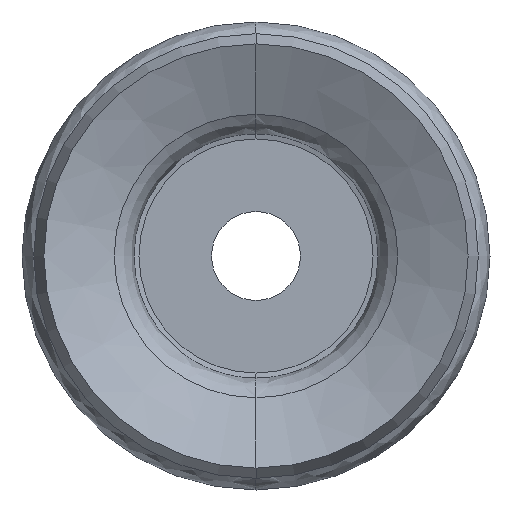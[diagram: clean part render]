
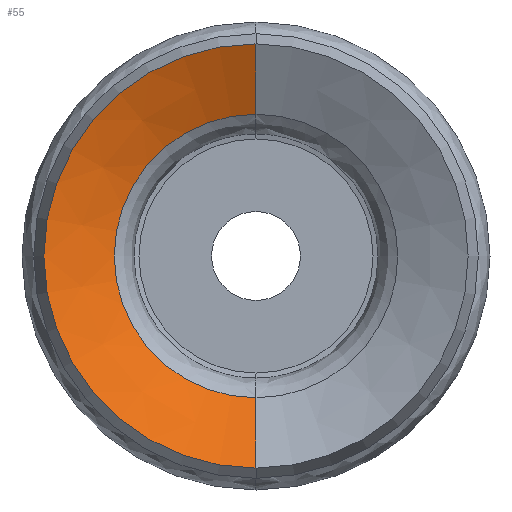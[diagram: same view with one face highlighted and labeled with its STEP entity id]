
A CAD part, front view. The second image highlights one B-rep face of the part: STEP entity #55.
In plain terms, the highlighted conical face has half-angle 64.277 degrees and reference radius 6.059 mm.
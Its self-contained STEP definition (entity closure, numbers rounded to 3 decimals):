
#50 = AXIS2_PLACEMENT_3D ( 'NONE', #527, #655, #651 ) ;
#55 = ADVANCED_FACE ( 'NONE', ( #223 ), #717, .F. ) ;
#101 = CARTESIAN_POINT ( 'NONE',  ( 0., -14.551, -6.059 ) ) ;
#114 = VECTOR ( 'NONE', #664, 1000. ) ;
#191 = DIRECTION ( 'NONE',  ( 0., -0.434, -0.901 ) ) ;
#223 = FACE_OUTER_BOUND ( 'NONE', #716, .T. ) ;
#324 = EDGE_CURVE ( 'NONE', #967, #958, #586, .T. ) ;
#448 = DIRECTION ( 'NONE',  ( 0., 1., 0. ) ) ;
#495 = VERTEX_POINT ( 'NONE', #785 ) ;
#526 = LINE ( 'NONE', #662, #114 ) ;
#527 = CARTESIAN_POINT ( 'NONE',  ( 0., -16., 0. ) ) ;
#586 = LINE ( 'NONE', #101, #900 ) ;
#604 = ORIENTED_EDGE ( 'NONE', *, *, #324, .F. ) ;
#605 = CARTESIAN_POINT ( 'NONE',  ( 0., -14.551, -6.059 ) ) ;
#637 = ORIENTED_EDGE ( 'NONE', *, *, #814, .T. ) ;
#651 = DIRECTION ( 'NONE',  ( -1., 0., 0. ) ) ;
#655 = DIRECTION ( 'NONE',  ( 0., -1., 0. ) ) ;
#662 = CARTESIAN_POINT ( 'NONE',  ( 0., -14.551, 6.059 ) ) ;
#664 = DIRECTION ( 'NONE',  ( 0., -0.434, 0.901 ) ) ;
#679 = ORIENTED_EDGE ( 'NONE', *, *, #1026, .T. ) ;
#716 = EDGE_LOOP ( 'NONE', ( #679, #961, #637, #604 ) ) ;
#717 = CONICAL_SURFACE ( 'NONE', #1087, 6.059, 1.122 ) ;
#752 = CIRCLE ( 'NONE', #50, 9.066 ) ;
#785 = CARTESIAN_POINT ( 'NONE',  ( 0., -14.551, 6.059 ) ) ;
#813 = CIRCLE ( 'NONE', #980, 6.059 ) ;
#814 = EDGE_CURVE ( 'NONE', #1096, #958, #752, .T. ) ;
#900 = VECTOR ( 'NONE', #191, 1000. ) ;
#909 = EDGE_CURVE ( 'NONE', #495, #1096, #526, .T. ) ;
#940 = CARTESIAN_POINT ( 'NONE',  ( 0., -14.551, 0. ) ) ;
#948 = CARTESIAN_POINT ( 'NONE',  ( 0., -16., 9.066 ) ) ;
#958 = VERTEX_POINT ( 'NONE', #996 ) ;
#961 = ORIENTED_EDGE ( 'NONE', *, *, #909, .T. ) ;
#967 = VERTEX_POINT ( 'NONE', #605 ) ;
#980 = AXIS2_PLACEMENT_3D ( 'NONE', #940, #448, #997 ) ;
#992 = CARTESIAN_POINT ( 'NONE',  ( 0., -14.551, 0. ) ) ;
#996 = CARTESIAN_POINT ( 'NONE',  ( 0., -16., -9.066 ) ) ;
#997 = DIRECTION ( 'NONE',  ( 0., 0., -1. ) ) ;
#1026 = EDGE_CURVE ( 'NONE', #967, #495, #813, .T. ) ;
#1029 = DIRECTION ( 'NONE',  ( 0., -1., 0. ) ) ;
#1060 = DIRECTION ( 'NONE',  ( 0., 0., -1. ) ) ;
#1087 = AXIS2_PLACEMENT_3D ( 'NONE', #992, #1029, #1060 ) ;
#1096 = VERTEX_POINT ( 'NONE', #948 ) ;
